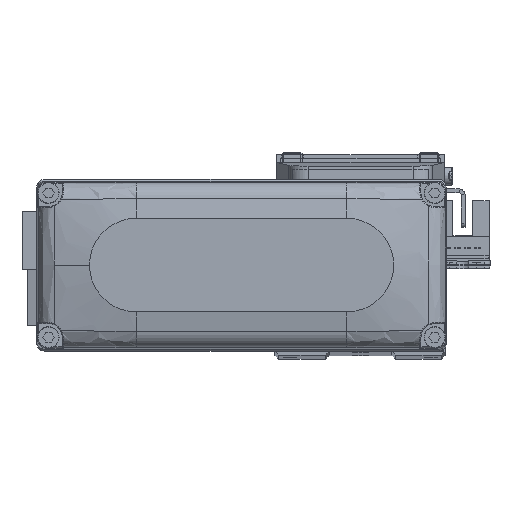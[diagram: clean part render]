
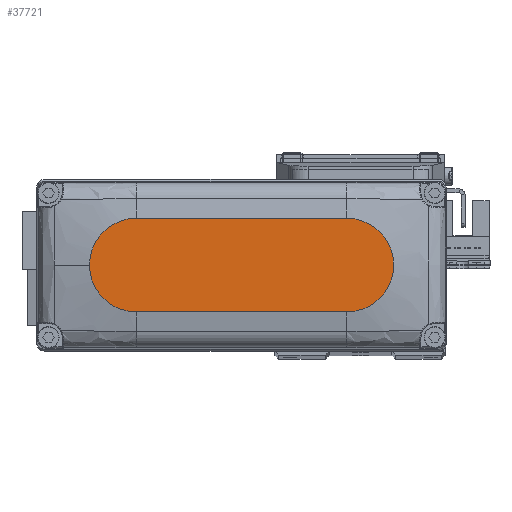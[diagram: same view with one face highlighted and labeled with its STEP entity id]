
A CAD part, top view. The second image highlights one B-rep face of the part: STEP entity #37721.
In plain terms, the highlighted planar face has unit normal (0, 0, 1).
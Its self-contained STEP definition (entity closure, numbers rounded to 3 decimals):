
#1377 = ORIENTED_EDGE ( 'NONE', *, *, #16266, .T. ) ;
#2069 = EDGE_CURVE ( 'NONE', #32909, #7308, #26167, .T. ) ;
#2292 = CARTESIAN_POINT ( 'NONE',  ( 27., -12., 25. ) ) ;
#2424 = VECTOR ( 'NONE', #18842, 1000. ) ;
#4210 = DIRECTION ( 'NONE',  ( 0., 0., 1. ) ) ;
#5664 = DIRECTION ( 'NONE',  ( 1., 0., 0. ) ) ;
#5915 = CARTESIAN_POINT ( 'NONE',  ( 0., 0., 25. ) ) ;
#6541 = CARTESIAN_POINT ( 'NONE',  ( -27., 12., 25. ) ) ;
#7060 = CARTESIAN_POINT ( 'NONE',  ( -27., -12., 25. ) ) ;
#7308 = VERTEX_POINT ( 'NONE', #7060 ) ;
#7322 = CARTESIAN_POINT ( 'NONE',  ( -27., 12., 25. ) ) ;
#7836 = VERTEX_POINT ( 'NONE', #2292 ) ;
#8199 = ORIENTED_EDGE ( 'NONE', *, *, #29003, .T. ) ;
#10474 = CARTESIAN_POINT ( 'NONE',  ( -27., -12., 25. ) ) ;
#10815 = CARTESIAN_POINT ( 'NONE',  ( 27., 0., 25. ) ) ;
#11005 = AXIS2_PLACEMENT_3D ( 'NONE', #21008, #33272, #5664 ) ;
#11063 = EDGE_CURVE ( 'NONE', #36529, #32909, #34142, .T. ) ;
#14307 = CIRCLE ( 'NONE', #36817, 12. ) ;
#14867 = AXIS2_PLACEMENT_3D ( 'NONE', #5915, #18226, #30497 ) ;
#15427 = ORIENTED_EDGE ( 'NONE', *, *, #2069, .T. ) ;
#16266 = EDGE_CURVE ( 'NONE', #7308, #7836, #38055, .T. ) ;
#16541 = DIRECTION ( 'NONE',  ( 1., 0., 0. ) ) ;
#17421 = VECTOR ( 'NONE', #22750, 1000. ) ;
#17985 = EDGE_CURVE ( 'NONE', #33160, #36529, #14307, .T. ) ;
#18226 = DIRECTION ( 'NONE',  ( 0., 0., 1. ) ) ;
#18842 = DIRECTION ( 'NONE',  ( -1., 0., 0. ) ) ;
#19454 = ORIENTED_EDGE ( 'NONE', *, *, #11063, .T. ) ;
#21008 = CARTESIAN_POINT ( 'NONE',  ( 27., 0., 25. ) ) ;
#21030 = AXIS2_PLACEMENT_3D ( 'NONE', #31825, #4210, #16541 ) ;
#21255 = FACE_OUTER_BOUND ( 'NONE', #36752, .T. ) ;
#22750 = DIRECTION ( 'NONE',  ( 1., 0., 0. ) ) ;
#23100 = DIRECTION ( 'NONE',  ( 0., 0., 1. ) ) ;
#24428 = CARTESIAN_POINT ( 'NONE',  ( 39., 0., 25. ) ) ;
#26167 = CIRCLE ( 'NONE', #21030, 12. ) ;
#28370 = CIRCLE ( 'NONE', #11005, 12. ) ;
#29003 = EDGE_CURVE ( 'NONE', #7836, #33160, #28370, .T. ) ;
#30497 = DIRECTION ( 'NONE',  ( 1., 0., 0. ) ) ;
#31825 = CARTESIAN_POINT ( 'NONE',  ( -27., 0., 25. ) ) ;
#32909 = VERTEX_POINT ( 'NONE', #7322 ) ;
#33160 = VERTEX_POINT ( 'NONE', #24428 ) ;
#33272 = DIRECTION ( 'NONE',  ( 0., 0., 1. ) ) ;
#33460 = ORIENTED_EDGE ( 'NONE', *, *, #17985, .T. ) ;
#33524 = PLANE ( 'NONE',  #14867 ) ;
#34142 = LINE ( 'NONE', #6541, #2424 ) ;
#35398 = DIRECTION ( 'NONE',  ( 1., 0., 0. ) ) ;
#36529 = VERTEX_POINT ( 'NONE', #37129 ) ;
#36752 = EDGE_LOOP ( 'NONE', ( #19454, #15427, #1377, #8199, #33460 ) ) ;
#36817 = AXIS2_PLACEMENT_3D ( 'NONE', #10815, #23100, #35398 ) ;
#37129 = CARTESIAN_POINT ( 'NONE',  ( 27., 12., 25. ) ) ;
#37721 = ADVANCED_FACE ( 'NONE', ( #21255 ), #33524, .T. ) ;
#38055 = LINE ( 'NONE', #10474, #17421 ) ;
